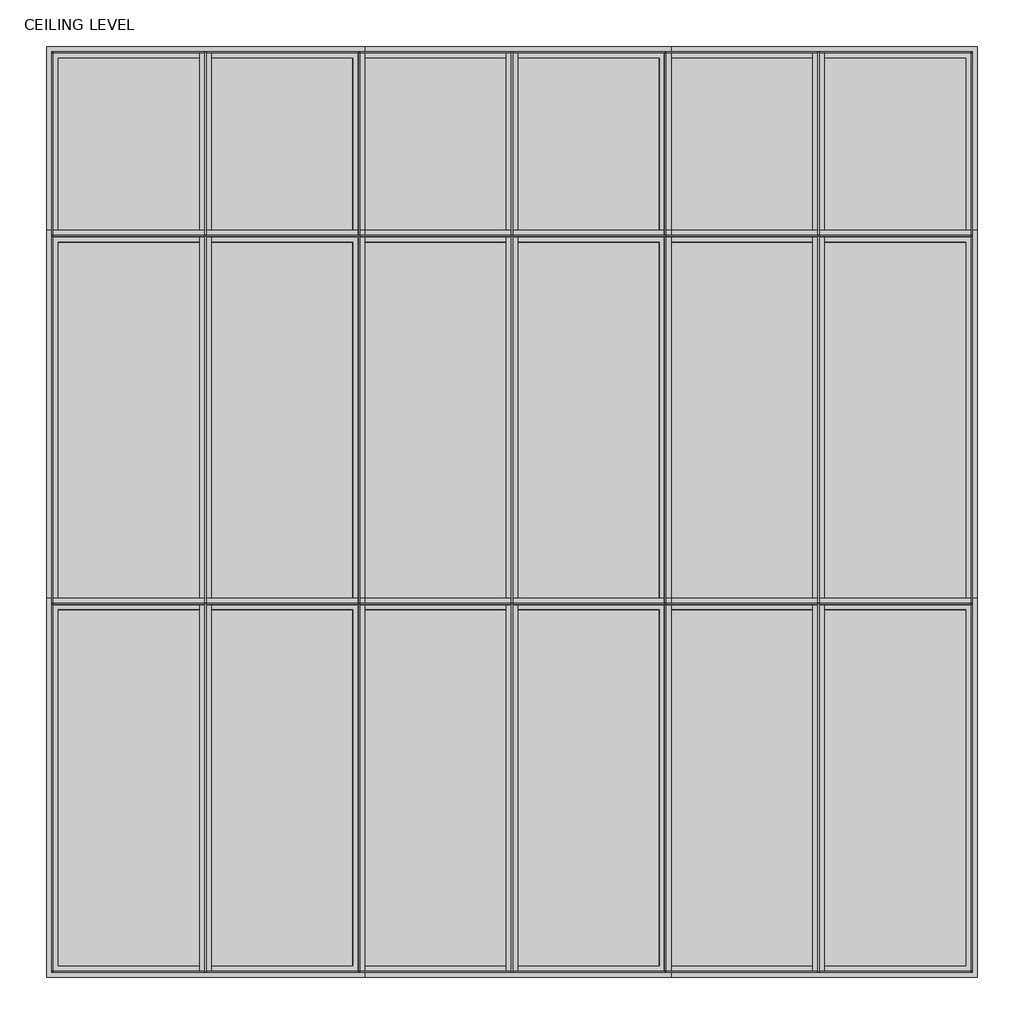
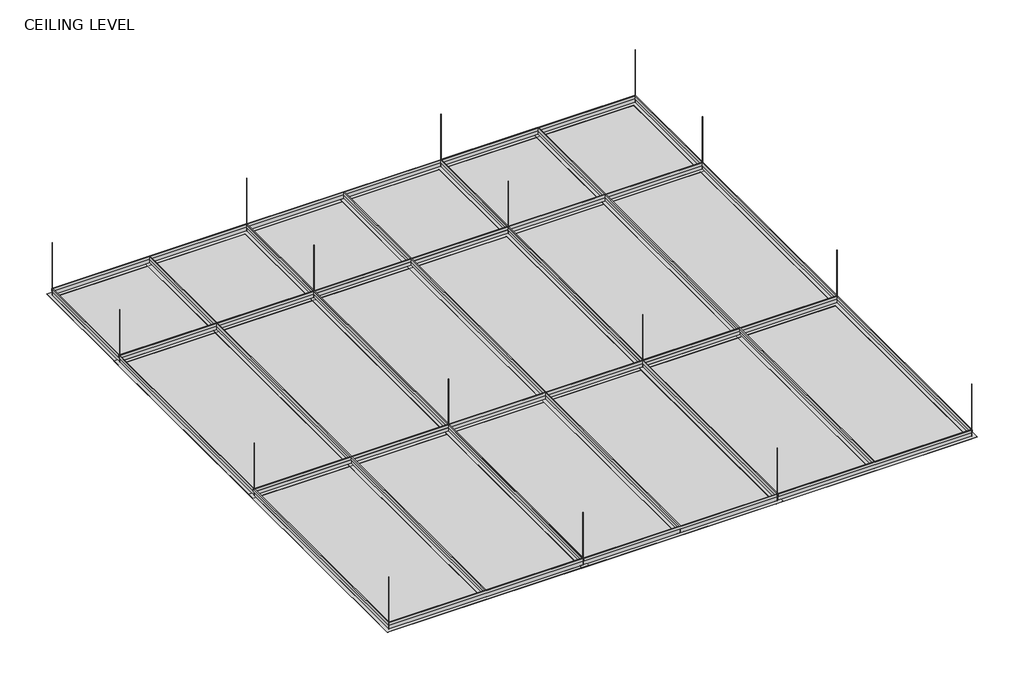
# One storey: 9 plates.
"""IFC4 building model written with IfcOpenShell, lengths in millimetres."""

import ifcopenshell
import ifcopenshell.guid

model = None  # the IFC model being written
_history = None  # IfcOwnerHistory: only IFC2X3 demands one
_inside = {}  # id of a spatial element -> (the spatial element, [elements in it])
_under = {}  # id of a project, library or spatial element -> (it, [spatial elements below it])
_declared = {}  # id of a project -> (the project, [libraries it declares])
_typed = {}  # id of a type object -> (the type object, [elements of that type])
_made_of = {}  # id of a material, layer set ... -> (it, [elements and type objects made of it])


def new_model(schema):
    """Start an empty IFC model of exactly this schema.

    Asked for "IFC4X3", IfcOpenShell would pick the latest addendum, in which some entities
    have other attributes; the version numbers below select the first issue.
    IFC2X3 requires an IfcOwnerHistory on every rooted entity: one is made here for all.
    """
    global model, _history
    if schema == "IFC4X3":
        model = ifcopenshell.file(schema_version=(4, 3, 0, 0))
    else:
        model = ifcopenshell.file(schema=schema)
    _inside.clear()
    _under.clear()
    _declared.clear()
    _typed.clear()
    _made_of.clear()
    _history = None
    if model.schema == "IFC2X3":
        org = make("IfcOrganization", Name="unknown")
        user = make(
            "IfcPersonAndOrganization",
            ThePerson=make("IfcPerson", FamilyName="unknown"),
            TheOrganization=org,
        )
        app = make(
            "IfcApplication",
            ApplicationDeveloper=org,
            Version="unknown",
            ApplicationFullName="unknown",
            ApplicationIdentifier="unknown",
        )
        _history = make(
            "IfcOwnerHistory",
            OwningUser=user,
            OwningApplication=app,
            ChangeAction="ADDED",
            CreationDate=0,
        )
    return model


def make(cls, **values):
    """One entity of the class cls with the attributes given. An attribute that is None is left unset."""
    return model.create_entity(
        cls, **{name: value for name, value in values.items() if value is not None}
    )


def rooted(cls, **values):
    """An entity with a GlobalId (a new one), such as an element, a storey or a relation."""
    return make(cls, GlobalId=ifcopenshell.guid.new(), OwnerHistory=_history, **values)


def si_unit(unit_type, name, prefix=None):
    """IfcSIUnit, for example si_unit("LENGTHUNIT", "METRE", prefix="MILLI")."""
    return make("IfcSIUnit", UnitType=unit_type, Prefix=prefix, Name=name)


def assignment(units):
    """IfcUnitAssignment: the units of a project."""
    return None if units is None else make("IfcUnitAssignment", Units=units)


def point(xyz):
    """IfcCartesianPoint."""
    return None if xyz is None else make("IfcCartesianPoint", Coordinates=xyz)


def direction(xyz):
    """IfcDirection."""
    return None if xyz is None else make("IfcDirection", DirectionRatios=xyz)


def frame(location, z_axis=None, x_axis=None):
    """IfcAxis2Placement3D, a coordinate frame: its origin and axes. An axis left out is left unset."""
    return make(
        "IfcAxis2Placement3D",
        Location=point(location),
        Axis=direction(z_axis),
        RefDirection=direction(x_axis),
    )


def frame_2d(location, x_axis=None):
    """IfcAxis2Placement2D, a coordinate frame in the plane: its origin and x axis."""
    return make(
        "IfcAxis2Placement2D", Location=point(location), RefDirection=direction(x_axis)
    )


def origin():
    """The frame at (0, 0, 0) with its axes left unset."""
    return frame((0.0, 0.0, 0.0))


def origin_with_axes():
    """The frame at (0, 0, 0) with the z axis (0, 0, 1) and the x axis (1, 0, 0) written out."""
    return frame((0.0, 0.0, 0.0), z_axis=(0.0, 0.0, 1.0), x_axis=(1.0, 0.0, 0.0))


def place(relative_to, where):
    """IfcLocalPlacement: puts the frame where relative to a parent placement (None: the world)."""
    return make(
        "IfcLocalPlacement", PlacementRelTo=relative_to, RelativePlacement=where
    )


def context(
    kind, dimensions, precision=None, world=None, true_north=None, identifier=None
):
    """IfcGeometricRepresentationContext, for example the 3D "Model" context."""
    return make(
        "IfcGeometricRepresentationContext",
        ContextIdentifier=identifier,
        ContextType=kind,
        CoordinateSpaceDimension=dimensions,
        Precision=precision,
        WorldCoordinateSystem=world,
        TrueNorth=true_north,
    )


def project(units=None, contexts=None):
    """IfcProject with its units and contexts."""
    return rooted(
        "IfcProject",
        Name="project",
        RepresentationContexts=contexts,
        UnitsInContext=assignment(units),
    )


def spatial(cls, under=None, at=None, **own):
    """A site, building, storey or space (cls), placed at a placement, below another one or the project."""
    s = rooted(cls, ObjectPlacement=at, **own)
    if under is not None:
        _under.setdefault(under.id(), (under, []))[1].append(s)
    return s


def polyline(points):
    """IfcPolyline through the points."""
    return make("IfcPolyline", Points=[point(p) for p in points])


def circle_curve(where, radius):
    """IfcCircle in the frame where."""
    return make("IfcCircle", Position=where, Radius=radius)


def trimmed(basis, trim1, trim2, sense, master):
    """IfcTrimmedCurve: the piece of a basis curve between two trims."""
    return make(
        "IfcTrimmedCurve",
        BasisCurve=basis,
        Trim1=trim1,
        Trim2=trim2,
        SenseAgreement=sense,
        MasterRepresentation=master,
    )


def segment(curve, same_sense, transition):
    """IfcCompositeCurveSegment."""
    return make(
        "IfcCompositeCurveSegment",
        Transition=transition,
        SameSense=same_sense,
        ParentCurve=curve,
    )


def composite_curve(segments, self_intersect=None):
    """IfcCompositeCurve: segments joined end to end."""
    return make("IfcCompositeCurve", Segments=segments, SelfIntersect=self_intersect)


def outline(outer, holes=None, kind="AREA"):
    """IfcArbitraryClosedProfileDef: a profile drawn as a closed curve; with holes, ...WithVoids."""
    if holes is None:
        return make("IfcArbitraryClosedProfileDef", ProfileType=kind, OuterCurve=outer)
    return make(
        "IfcArbitraryProfileDefWithVoids",
        ProfileType=kind,
        OuterCurve=outer,
        InnerCurves=holes,
    )


def extrude(swept, where, along, depth):
    """IfcExtrudedAreaSolid: the profile swept, set in the frame where, extruded along a direction by depth."""
    return make(
        "IfcExtrudedAreaSolid",
        SweptArea=swept,
        Position=where,
        ExtrudedDirection=direction(along),
        Depth=depth,
    )


def faces_of(points, faces, orient=None, outer=None):
    """IfcFace entities. A face is a list of loops; a loop is a list of indices into points, from 0.

    orient and outer hold one flag for each loop. By default every Orientation is true, the
    first loop of a face is its IfcFaceOuterBound and the others are IfcFaceBound.
    """
    made = []
    for i, loops in enumerate(faces):
        bounds = []
        for j, loop in enumerate(loops):
            is_outer = j == 0 if outer is None else outer[i][j]
            bounds.append(
                make(
                    "IfcFaceOuterBound" if is_outer else "IfcFaceBound",
                    Bound=make("IfcPolyLoop", Polygon=[points[k] for k in loop]),
                    Orientation=True if orient is None else orient[i][j],
                )
            )
        made.append(make("IfcFace", Bounds=bounds))
    return made


def faceted_brep(points, faces, orient=None, outer=None, voids=None):
    """IfcFacetedBrep: a solid bounded by flat faces; with voids (closed shells), ...WithVoids."""
    shared = [point(p) for p in points]
    hull = make("IfcClosedShell", CfsFaces=faces_of(shared, faces, orient, outer))
    if voids is None:
        return make("IfcFacetedBrep", Outer=hull)
    return make(
        "IfcFacetedBrepWithVoids",
        Outer=hull,
        Voids=[
            make(cls, CfsFaces=faces_of(shared, fs, o, b)) for cls, fs, o, b in voids
        ],
    )


def shape(context_of_items, identifier, shape_type, items):
    """IfcShapeRepresentation: the items that make up one representation, for example the "Body"."""
    return make(
        "IfcShapeRepresentation",
        ContextOfItems=context_of_items,
        RepresentationIdentifier=identifier,
        RepresentationType=shape_type,
        Items=items,
    )


def source(mapping_origin, context_of_items, identifier, shape_type, items):
    """IfcRepresentationMap: a shape defined once, which mapped items show again and again."""
    return make(
        "IfcRepresentationMap",
        MappingOrigin=mapping_origin,
        MappedRepresentation=shape(context_of_items, identifier, shape_type, items),
    )


def transform(
    local_origin,
    x_axis=None,
    y_axis=None,
    z_axis=None,
    scale=None,
    scale2=None,
    scale3=None,
    uniform=True,
):
    """IfcCartesianTransformationOperator3D, or its non-uniform kind. x_axis, y_axis, z_axis: its Axis1, 2, 3."""
    if uniform:
        return make(
            "IfcCartesianTransformationOperator3D",
            Axis1=direction(x_axis),
            Axis2=direction(y_axis),
            LocalOrigin=point(local_origin),
            Scale=scale,
            Axis3=direction(z_axis),
        )
    return make(
        "IfcCartesianTransformationOperator3DnonUniform",
        Axis1=direction(x_axis),
        Axis2=direction(y_axis),
        LocalOrigin=point(local_origin),
        Scale=scale,
        Axis3=direction(z_axis),
        Scale2=scale2,
        Scale3=scale3,
    )


def mapped(mapping_source, mapping_target):
    """IfcMappedItem: shows the shape of a source again, moved by a transform."""
    return make(
        "IfcMappedItem", MappingSource=mapping_source, MappingTarget=mapping_target
    )


def made_of(thing, what):
    """Note that an element or type object is made of a material, layer set ...; save() writes the relation."""
    if what is not None:
        _made_of.setdefault(what.id(), (what, []))[1].append(thing)
    return thing


def element(
    cls,
    number,
    at=None,
    inside=None,
    cuts=None,
    type_object=None,
    material=None,
    context=None,
    identifier="Body",
    shape_type=None,
    held_by="IfcProductDefinitionShape",
    body=None,
    shapes=None,
    **own,
):
    """One element of the class cls, such as IfcWall. Its Tag is "e" and its number.

    at: its placement. inside: the storey or other place that contains it. cuts: it is an
    opening in that element (IfcRelVoidsElement). A single representation is given by context,
    identifier, shape_type and body (its items); several are given by shapes. held_by: the class
    of the entity that holds the representations. save() writes the other relations.
    """
    e = rooted(cls, Tag="e%d" % number, ObjectPlacement=at, **own)
    if body is not None:
        shapes = [shape(context, identifier, shape_type, body)]
    if shapes is not None:
        e.Representation = make(held_by, Representations=shapes)
    if inside is not None:
        _inside.setdefault(inside.id(), (inside, []))[1].append(e)
    if cuts is not None:
        rooted(
            "IfcRelVoidsElement", RelatingBuildingElement=cuts, RelatedOpeningElement=e
        )
    if type_object is not None:
        _typed.setdefault(type_object.id(), (type_object, []))[1].append(e)
    return made_of(e, material)


def aggregate(whole, parts):
    """IfcRelAggregates: a whole, such as a stair, and the parts it consists of."""
    return rooted("IfcRelAggregates", RelatingObject=whole, RelatedObjects=parts)


def save(model, path):
    """Write the relations noted so far, then the file.

    IfcRelAggregates (storeys below a building ...), IfcRelContainedInSpatialStructure (elements
    in a storey), IfcRelDefinesByType, IfcRelAssociatesMaterial and IfcRelDeclares: one each for
    every whole, place, type object, material and project.
    """
    for whole, parts in _under.values():
        aggregate(whole, parts)
    for where, things in _inside.values():
        rooted(
            "IfcRelContainedInSpatialStructure",
            RelatedElements=things,
            RelatingStructure=where,
        )
    for kind, things in _typed.values():
        rooted("IfcRelDefinesByType", RelatedObjects=things, RelatingType=kind)
    for what, things in _made_of.values():
        rooted("IfcRelAssociatesMaterial", RelatedObjects=things, RelatingMaterial=what)
    for by, libraries in _declared.values():
        rooted("IfcRelDeclares", RelatingContext=by, RelatedDefinitions=libraries)
    model.write(path)


def flush_ceiling_panel_with_tee_and_cable_ties_9fe2c077(model_context):
    return source(origin(), model_context, "Body", "SolidModel", [
        extrude(outline(composite_curve([segment(trimmed(circle_curve(frame_2d((1200.0, 500.0000002)), 0.5), [point((1200.0, 500.5000002))], [point((1200.0, 499.5000002))], False, "CARTESIAN"), True, "CONTINUOUS"), segment(trimmed(circle_curve(frame_2d((1200.0, 500.0000002)), 0.5), [point((1200.0, 499.5000002))], [point((1200.0, 500.5000002))], False, "CARTESIAN"), True, "CONTINUOUS")], self_intersect=False)), frame((0.0, -300.0, 0.0), z_axis=(0.0, 1.0, 0.0), x_axis=(0.0, 0.0, 1.0)), (0.0, 0.0, 1.0), 300.0),
        extrude(outline(composite_curve([segment(trimmed(circle_curve(frame_2d((1200.0, -500.0000002)), 0.5), [point((1200.0, -499.5000002))], [point((1200.0, -500.5000002))], False, "CARTESIAN"), True, "CONTINUOUS"), segment(trimmed(circle_curve(frame_2d((1200.0, -500.0000002)), 0.5), [point((1200.0, -500.5000002))], [point((1200.0, -499.5000002))], False, "CARTESIAN"), True, "CONTINUOUS")], self_intersect=False)), frame((0.0, -300.0, 0.0), z_axis=(0.0, 1.0, 0.0), x_axis=(0.0, 0.0, 1.0)), (0.0, 0.0, 1.0), 300.0),
        extrude(outline(composite_curve([segment(trimmed(circle_curve(frame_2d((0.0, 500.0000002)), 0.5), [point((0.0, 500.5000002))], [point((0.0, 499.5000002))], False, "CARTESIAN"), True, "CONTINUOUS"), segment(trimmed(circle_curve(frame_2d((0.0, 500.0000002)), 0.5), [point((0.0, 499.5000002))], [point((0.0, 500.5000002))], False, "CARTESIAN"), True, "CONTINUOUS")], self_intersect=False)), frame((0.0, -300.0, 0.0), z_axis=(0.0, 1.0, 0.0), x_axis=(0.0, 0.0, 1.0)), (0.0, 0.0, 1.0), 300.0),
        extrude(outline(composite_curve([segment(trimmed(circle_curve(frame_2d((0.0, -500.0000002)), 0.5), [point((0.0, -499.5000002))], [point((0.0, -500.5000002))], False, "CARTESIAN"), True, "CONTINUOUS"), segment(trimmed(circle_curve(frame_2d((0.0, -500.0000002)), 0.5), [point((0.0, -500.5000002))], [point((0.0, -499.5000002))], False, "CARTESIAN"), True, "CONTINUOUS")], self_intersect=False)), frame((0.0, -300.0, 0.0), z_axis=(0.0, 1.0, 0.0), x_axis=(0.0, 0.0, 1.0)), (0.0, 0.0, 1.0), 300.0),
        extrude(outline(polyline([(19.0, -15.0), (19.0, -16.0), (0.5, -16.0), (0.5, -37.0), (2.5, -37.0), (2.5, -51.0), (-2.5, -51.0), (-2.5, -37.0), (-0.5, -37.0), (-0.5, -16.0), (-19.0, -16.0), (-19.0, -15.0), (19.0, -15.0)])), origin_with_axes(), (0.0, 0.0, 1.0), 1200.0),
        faceted_brep([(499.5000002, -37.0, 1199.5), (499.5000002, -16.0, 1199.5), (499.5000002, -16.0, 0.5), (499.5000002, -37.0, 0.5), (497.5000002, -51.0, 1197.5), (497.5000002, -37.0, 1197.5), (497.5000002, -37.0, 2.5), (497.5000002, -51.0, 2.5), (502.5000002, -37.0, 1202.5), (502.5000002, -51.0, 1202.5), (502.5000002, -51.0, -2.5), (502.5000002, -37.0, -2.5), (500.5000002, -16.0, 1200.5), (500.5000002, -37.0, 1200.5), (500.5000002, -37.0, -0.5), (500.5000002, -16.0, -0.5), (519.0000002, -15.0, 1219.0), (519.0000002, -16.0, 1219.0), (519.0000002, -16.0, -19.0), (519.0000002, -15.0, -19.0), (-499.5000002, -16.0, 0.5), (-499.5000002, -37.0, 0.5), (-497.5000002, -37.0, 2.5), (-497.5000002, -51.0, 2.5), (-502.5000002, -51.0, -2.5), (-502.5000002, -37.0, -2.5), (-500.5000002, -37.0, -0.5), (-500.5000002, -16.0, -0.5), (-519.0000002, -16.0, -19.0), (-519.0000002, -15.0, -19.0), (-499.5000002, -16.0, 1199.5), (-499.5000002, -37.0, 1199.5), (-497.5000002, -37.0, 1197.5), (-497.5000002, -51.0, 1197.5), (-502.5000002, -51.0, 1202.5), (-502.5000002, -37.0, 1202.5), (-500.5000002, -37.0, 1200.5), (-500.5000002, -16.0, 1200.5), (-519.0000002, -16.0, 1219.0), (-519.0000002, -15.0, 1219.0), (481.0000002, -15.0, 1181.0), (-481.0000002, -15.0, 1181.0), (-481.0000002, -15.0, 19.0), (481.0000002, -15.0, 19.0), (481.0000002, -16.0, 1181.0), (481.0000002, -16.0, 19.0), (-481.0000002, -16.0, 19.0), (-481.0000002, -16.0, 1181.0)], [[[0, 1, 2, 3]], [[4, 5, 6, 7]], [[8, 9, 10, 11]], [[12, 13, 14, 15]], [[16, 17, 18, 19]], [[3, 2, 20, 21]], [[7, 6, 22, 23]], [[11, 10, 24, 25]], [[15, 14, 26, 27]], [[19, 18, 28, 29]], [[21, 20, 30, 31]], [[23, 22, 32, 33]], [[25, 24, 34, 35]], [[27, 26, 36, 37]], [[29, 28, 38, 39]], [[19, 29, 39, 16], [40, 41, 42, 43]], [[31, 30, 1, 0]], [[3, 21, 31, 0], [5, 32, 22, 6]], [[33, 32, 5, 4]], [[9, 34, 24, 10], [7, 23, 33, 4]], [[35, 34, 9, 8]], [[11, 25, 35, 8], [13, 36, 26, 14]], [[37, 36, 13, 12]], [[17, 38, 28, 18], [15, 27, 37, 12]], [[39, 38, 17, 16]], [[44, 40, 43, 45]], [[45, 43, 42, 46]], [[46, 42, 41, 47]], [[47, 41, 40, 44]], [[1, 30, 20, 2], [45, 46, 47, 44]]]),
        extrude(outline(polyline([(500.0000002, -15.0), (-500.0000002, -15.0), (-500.0000002, 0.0), (500.0000002, 0.0), (500.0000002, -15.0)])), origin_with_axes(), (0.0, 0.0, 1.0), 1200.0),
    ])


def flush_ceiling_panel_with_tee_and_cable_ties_458a10b8(model_context):
    return source(origin(), model_context, "Body", "SolidModel", [
        extrude(outline(composite_curve([segment(trimmed(circle_curve(frame_2d((600.0, 500.0000002)), 0.5), [point((600.0, 500.5000002))], [point((600.0, 499.5000002))], False, "CARTESIAN"), True, "CONTINUOUS"), segment(trimmed(circle_curve(frame_2d((600.0, 500.0000002)), 0.5), [point((600.0, 499.5000002))], [point((600.0, 500.5000002))], False, "CARTESIAN"), True, "CONTINUOUS")], self_intersect=False)), frame((0.0, -300.0, 0.0), z_axis=(0.0, 1.0, 0.0), x_axis=(0.0, 0.0, 1.0)), (0.0, 0.0, 1.0), 300.0),
        extrude(outline(composite_curve([segment(trimmed(circle_curve(frame_2d((600.0, -500.0000002)), 0.5), [point((600.0, -499.5000002))], [point((600.0, -500.5000002))], False, "CARTESIAN"), True, "CONTINUOUS"), segment(trimmed(circle_curve(frame_2d((600.0, -500.0000002)), 0.5), [point((600.0, -500.5000002))], [point((600.0, -499.5000002))], False, "CARTESIAN"), True, "CONTINUOUS")], self_intersect=False)), frame((0.0, -300.0, 0.0), z_axis=(0.0, 1.0, 0.0), x_axis=(0.0, 0.0, 1.0)), (0.0, 0.0, 1.0), 300.0),
        extrude(outline(composite_curve([segment(trimmed(circle_curve(frame_2d((0.0, 500.0000002)), 0.5), [point((0.0, 500.5000002))], [point((0.0, 499.5000002))], False, "CARTESIAN"), True, "CONTINUOUS"), segment(trimmed(circle_curve(frame_2d((0.0, 500.0000002)), 0.5), [point((0.0, 499.5000002))], [point((0.0, 500.5000002))], False, "CARTESIAN"), True, "CONTINUOUS")], self_intersect=False)), frame((0.0, -300.0, 0.0), z_axis=(0.0, 1.0, 0.0), x_axis=(0.0, 0.0, 1.0)), (0.0, 0.0, 1.0), 300.0),
        extrude(outline(composite_curve([segment(trimmed(circle_curve(frame_2d((0.0, -500.0000002)), 0.5), [point((0.0, -499.5000002))], [point((0.0, -500.5000002))], False, "CARTESIAN"), True, "CONTINUOUS"), segment(trimmed(circle_curve(frame_2d((0.0, -500.0000002)), 0.5), [point((0.0, -500.5000002))], [point((0.0, -499.5000002))], False, "CARTESIAN"), True, "CONTINUOUS")], self_intersect=False)), frame((0.0, -300.0, 0.0), z_axis=(0.0, 1.0, 0.0), x_axis=(0.0, 0.0, 1.0)), (0.0, 0.0, 1.0), 300.0),
        extrude(outline(polyline([(19.0, -15.0), (19.0, -16.0), (0.5, -16.0), (0.5, -37.0), (2.5, -37.0), (2.5, -51.0), (-2.5, -51.0), (-2.5, -37.0), (-0.5, -37.0), (-0.5, -16.0), (-19.0, -16.0), (-19.0, -15.0), (19.0, -15.0)])), origin_with_axes(), (0.0, 0.0, 1.0), 600.0),
        faceted_brep([(499.5000002, -37.0, 599.5), (499.5000002, -16.0, 599.5), (499.5000002, -16.0, 0.5), (499.5000002, -37.0, 0.5), (497.5000002, -51.0, 597.5), (497.5000002, -37.0, 597.5), (497.5000002, -37.0, 2.5), (497.5000002, -51.0, 2.5), (502.5000002, -37.0, 602.5), (502.5000002, -51.0, 602.5), (502.5000002, -51.0, -2.5), (502.5000002, -37.0, -2.5), (500.5000002, -16.0, 600.5), (500.5000002, -37.0, 600.5), (500.5000002, -37.0, -0.5), (500.5000002, -16.0, -0.5), (519.0000002, -15.0, 619.0), (519.0000002, -16.0, 619.0), (519.0000002, -16.0, -19.0), (519.0000002, -15.0, -19.0), (-499.5000002, -16.0, 0.5), (-499.5000002, -37.0, 0.5), (-497.5000002, -37.0, 2.5), (-497.5000002, -51.0, 2.5), (-502.5000002, -51.0, -2.5), (-502.5000002, -37.0, -2.5), (-500.5000002, -37.0, -0.5), (-500.5000002, -16.0, -0.5), (-519.0000002, -16.0, -19.0), (-519.0000002, -15.0, -19.0), (-499.5000002, -16.0, 599.5), (-499.5000002, -37.0, 599.5), (-497.5000002, -37.0, 597.5), (-497.5000002, -51.0, 597.5), (-502.5000002, -51.0, 602.5), (-502.5000002, -37.0, 602.5), (-500.5000002, -37.0, 600.5), (-500.5000002, -16.0, 600.5), (-519.0000002, -16.0, 619.0), (-519.0000002, -15.0, 619.0), (481.0000002, -15.0, 581.0), (-481.0000002, -15.0, 581.0), (-481.0000002, -15.0, 19.0), (481.0000002, -15.0, 19.0), (481.0000002, -16.0, 581.0), (481.0000002, -16.0, 19.0), (-481.0000002, -16.0, 19.0), (-481.0000002, -16.0, 581.0)], [[[0, 1, 2, 3]], [[4, 5, 6, 7]], [[8, 9, 10, 11]], [[12, 13, 14, 15]], [[16, 17, 18, 19]], [[3, 2, 20, 21]], [[7, 6, 22, 23]], [[11, 10, 24, 25]], [[15, 14, 26, 27]], [[19, 18, 28, 29]], [[21, 20, 30, 31]], [[23, 22, 32, 33]], [[25, 24, 34, 35]], [[27, 26, 36, 37]], [[29, 28, 38, 39]], [[19, 29, 39, 16], [40, 41, 42, 43]], [[31, 30, 1, 0]], [[3, 21, 31, 0], [5, 32, 22, 6]], [[33, 32, 5, 4]], [[9, 34, 24, 10], [7, 23, 33, 4]], [[35, 34, 9, 8]], [[11, 25, 35, 8], [13, 36, 26, 14]], [[37, 36, 13, 12]], [[17, 38, 28, 18], [15, 27, 37, 12]], [[39, 38, 17, 16]], [[44, 40, 43, 45]], [[45, 43, 42, 46]], [[46, 42, 41, 47]], [[47, 41, 40, 44]], [[1, 30, 20, 2], [45, 46, 47, 44]]]),
        extrude(outline(polyline([(500.0000002, -15.0), (-500.0000002, -15.0), (-500.0000002, 0.0), (500.0000002, 0.0), (500.0000002, -15.0)])), origin_with_axes(), (0.0, 0.0, 1.0), 600.0),
    ])


def flush_ceiling_panel_with_tee_and_cable_ties_ceiling_panel_c41c92fd(model_context):
    return source(origin(), model_context, "Body", "SolidModel", [
        extrude(outline(composite_curve([segment(trimmed(circle_curve(frame_2d((1200.0, 500.0000002)), 0.5), [point((1200.0, 500.5000002))], [point((1200.0, 499.5000002))], False, "CARTESIAN"), True, "CONTINUOUS"), segment(trimmed(circle_curve(frame_2d((1200.0, 500.0000002)), 0.5), [point((1200.0, 499.5000002))], [point((1200.0, 500.5000002))], False, "CARTESIAN"), True, "CONTINUOUS")], self_intersect=False)), frame((0.0, -300.0, 0.0), z_axis=(0.0, 1.0, 0.0), x_axis=(0.0, 0.0, 1.0)), (0.0, 0.0, 1.0), 300.0),
        extrude(outline(composite_curve([segment(trimmed(circle_curve(frame_2d((1200.0, -500.0000002)), 0.5), [point((1200.0, -499.5000002))], [point((1200.0, -500.5000002))], False, "CARTESIAN"), True, "CONTINUOUS"), segment(trimmed(circle_curve(frame_2d((1200.0, -500.0000002)), 0.5), [point((1200.0, -500.5000002))], [point((1200.0, -499.5000002))], False, "CARTESIAN"), True, "CONTINUOUS")], self_intersect=False)), frame((0.0, -300.0, 0.0), z_axis=(0.0, 1.0, 0.0), x_axis=(0.0, 0.0, 1.0)), (0.0, 0.0, 1.0), 300.0),
        extrude(outline(composite_curve([segment(trimmed(circle_curve(frame_2d((0.0, 500.0000002)), 0.5), [point((0.0, 500.5000002))], [point((0.0, 499.5000002))], False, "CARTESIAN"), True, "CONTINUOUS"), segment(trimmed(circle_curve(frame_2d((0.0, 500.0000002)), 0.5), [point((0.0, 499.5000002))], [point((0.0, 500.5000002))], False, "CARTESIAN"), True, "CONTINUOUS")], self_intersect=False)), frame((0.0, -300.0, 0.0), z_axis=(0.0, 1.0, 0.0), x_axis=(0.0, 0.0, 1.0)), (0.0, 0.0, 1.0), 300.0),
        extrude(outline(composite_curve([segment(trimmed(circle_curve(frame_2d((0.0, -500.0000002)), 0.5), [point((0.0, -499.5000002))], [point((0.0, -500.5000002))], False, "CARTESIAN"), True, "CONTINUOUS"), segment(trimmed(circle_curve(frame_2d((0.0, -500.0000002)), 0.5), [point((0.0, -500.5000002))], [point((0.0, -499.5000002))], False, "CARTESIAN"), True, "CONTINUOUS")], self_intersect=False)), frame((0.0, -300.0, 0.0), z_axis=(0.0, 1.0, 0.0), x_axis=(0.0, 0.0, 1.0)), (0.0, 0.0, 1.0), 300.0),
        extrude(outline(polyline([(19.0, -15.0), (19.0, -16.0), (0.5, -16.0), (0.5, -37.0), (2.5, -37.0), (2.5, -51.0), (-2.5, -51.0), (-2.5, -37.0), (-0.5, -37.0), (-0.5, -16.0), (-19.0, -16.0), (-19.0, -15.0), (19.0, -15.0)])), origin_with_axes(), (0.0, 0.0, 1.0), 1200.0),
        faceted_brep([(481.0000002, -16.0, 1181.0), (481.0000002, -15.0, 1181.0), (481.0000002, -15.0, 19.0), (481.0000002, -16.0, 19.0), (499.5000002, -37.0, 1199.5), (499.5000002, -16.0, 1199.5), (499.5000002, -16.0, 0.5), (499.5000002, -37.0, 0.5), (497.5000002, -51.0, 1197.5), (497.5000002, -37.0, 1197.5), (497.5000002, -37.0, 2.5), (497.5000002, -51.0, 2.5), (502.5000002, -37.0, 1202.5), (502.5000002, -51.0, 1202.5), (502.5000002, -51.0, -2.5), (502.5000002, -37.0, -2.5), (500.5000002, -16.0, 1200.5), (500.5000002, -37.0, 1200.5), (500.5000002, -37.0, -0.5), (500.5000002, -16.0, -0.5), (519.0000002, -15.0, 1219.0), (519.0000002, -16.0, 1219.0), (519.0000002, -16.0, -19.0), (519.0000002, -15.0, -19.0), (-481.0000002, -15.0, 19.0), (-481.0000002, -16.0, 19.0), (-499.5000002, -16.0, 0.5), (-499.5000002, -37.0, 0.5), (-497.5000002, -37.0, 2.5), (-497.5000002, -51.0, 2.5), (-502.5000002, -51.0, -2.5), (-502.5000002, -37.0, -2.5), (-500.5000002, -37.0, -0.5), (-500.5000002, -16.0, -0.5), (-519.0000002, -16.0, -19.0), (-519.0000002, -15.0, -19.0), (-481.0000002, -15.0, 1181.0), (-481.0000002, -16.0, 1181.0), (-499.5000002, -16.0, 1199.5), (-499.5000002, -37.0, 1199.5), (-497.5000002, -37.0, 1197.5), (-497.5000002, -51.0, 1197.5), (-502.5000002, -51.0, 1202.5), (-502.5000002, -37.0, 1202.5), (-500.5000002, -37.0, 1200.5), (-500.5000002, -16.0, 1200.5), (-519.0000002, -16.0, 1219.0), (-519.0000002, -15.0, 1219.0)], [[[0, 1, 2, 3]], [[4, 5, 6, 7]], [[8, 9, 10, 11]], [[12, 13, 14, 15]], [[16, 17, 18, 19]], [[20, 21, 22, 23]], [[3, 2, 24, 25]], [[7, 6, 26, 27]], [[11, 10, 28, 29]], [[15, 14, 30, 31]], [[19, 18, 32, 33]], [[23, 22, 34, 35]], [[25, 24, 36, 37]], [[27, 26, 38, 39]], [[29, 28, 40, 41]], [[31, 30, 42, 43]], [[33, 32, 44, 45]], [[35, 34, 46, 47]], [[23, 35, 47, 20], [1, 36, 24, 2]], [[37, 36, 1, 0]], [[5, 38, 26, 6], [3, 25, 37, 0]], [[39, 38, 5, 4]], [[7, 27, 39, 4], [9, 40, 28, 10]], [[41, 40, 9, 8]], [[13, 42, 30, 14], [11, 29, 41, 8]], [[43, 42, 13, 12]], [[15, 31, 43, 12], [17, 44, 32, 18]], [[45, 44, 17, 16]], [[21, 46, 34, 22], [19, 33, 45, 16]], [[47, 46, 21, 20]]]),
        extrude(outline(polyline([(500.0000002, -15.0), (-500.0000002, -15.0), (-500.0000002, 0.0), (500.0000002, 0.0), (500.0000002, -15.0)])), origin_with_axes(), (0.0, 0.0, 1.0), 1200.0),
    ])


model = new_model("IFC4")

# Units and contexts
model_context = context("Model", 3, world=origin())
ifc_project = project(units=[si_unit("LENGTHUNIT", "METRE", prefix="MILLI")], contexts=[model_context])

# Site, building, storey
site = spatial("IfcSite", under=ifc_project)
building = spatial("IfcBuilding", under=site)
storey = spatial("IfcBuildingStorey", under=building, Name="CEILING LEVEL", Elevation=3000.0)

# Plates
placement = place(None, origin())
flush_ceiling_panel_with_tee_and_cable_ties_shape = flush_ceiling_panel_with_tee_and_cable_ties_9fe2c077(model_context)
element("IfcPlate", 1, ObjectType="Flush Ceiling Panel with Tee and Cable Ties : Ceiling Panel (Vinyl) with Tee and Cable Ties Edge", at=placement, inside=storey, context=model_context, shape_type="MappedRepresentation", body=[
    mapped(flush_ceiling_panel_with_tee_and_cable_ties_shape, transform((28839.2778373, -41850.6917524, 3000.0), x_axis=(1.0, 0.0, 0.0), y_axis=(0.0, 0.0, -1.0), z_axis=(0.0, 1.0, 0.0))),
])
element("IfcPlate", 2, ObjectType="Flush Ceiling Panel with Tee and Cable Ties : Ceiling Panel (Vinyl) with Tee and Cable Ties Edge", at=placement, inside=storey, context=model_context, shape_type="MappedRepresentation", body=[
    mapped(flush_ceiling_panel_with_tee_and_cable_ties_shape, transform((28839.2778373, -40650.6917524, 3000.0), x_axis=(1.0, 0.0, 0.0), y_axis=(0.0, 0.0, -1.0), z_axis=(0.0, 1.0, 0.0))),
])
flush_ceiling_panel_with_tee_and_cable_ties_2_shape = flush_ceiling_panel_with_tee_and_cable_ties_458a10b8(model_context)
element("IfcPlate", 3, ObjectType="Flush Ceiling Panel with Tee and Cable Ties : Ceiling Panel (Vinyl) with Tee and Cable Ties Edge", at=placement, inside=storey, context=model_context, shape_type="MappedRepresentation", body=[
    mapped(flush_ceiling_panel_with_tee_and_cable_ties_2_shape, transform((26839.2778373, -39450.6917524, 3000.0), x_axis=(1.0, 0.0, 0.0), y_axis=(0.0, 0.0, -1.0), z_axis=(0.0, 1.0, 0.0))),
])
element("IfcPlate", 4, ObjectType="Flush Ceiling Panel with Tee and Cable Ties : Ceiling Panel (Vinyl) with Tee and Cable Ties Edge", at=placement, inside=storey, context=model_context, shape_type="MappedRepresentation", body=[
    mapped(flush_ceiling_panel_with_tee_and_cable_ties_2_shape, transform((27839.2778375, -39450.6917524, 3000.0), x_axis=(1.0, 0.0, 0.0), y_axis=(0.0, 0.0, -1.0), z_axis=(0.0, 1.0, 0.0))),
])
element("IfcPlate", 5, ObjectType="Flush Ceiling Panel with Tee and Cable Ties : Ceiling Panel (Vinyl) with Tee and Cable Ties Edge", at=placement, inside=storey, context=model_context, shape_type="MappedRepresentation", body=[
    mapped(flush_ceiling_panel_with_tee_and_cable_ties_2_shape, transform((28839.2778373, -39450.6917524, 3000.0), x_axis=(1.0, 0.0, 0.0), y_axis=(0.0, 0.0, -1.0), z_axis=(0.0, 1.0, 0.0))),
])
flush_ceiling_panel_with_tee_and_cable_ties_ceiling_panel_shape = flush_ceiling_panel_with_tee_and_cable_ties_ceiling_panel_c41c92fd(model_context)
element("IfcPlate", 6, ObjectType="Flush Ceiling Panel with Tee and Cable Ties : Ceiling Panel with Tee and Cable Ties 1200x600", at=placement, inside=storey, context=model_context, shape_type="MappedRepresentation", body=[
    mapped(flush_ceiling_panel_with_tee_and_cable_ties_ceiling_panel_shape, transform((26839.2778373, -41850.6917524, 3000.0), x_axis=(1.0, 0.0, 0.0), y_axis=(0.0, 0.0, -1.0), z_axis=(0.0, 1.0, 0.0))),
])
element("IfcPlate", 7, ObjectType="Flush Ceiling Panel with Tee and Cable Ties : Ceiling Panel with Tee and Cable Ties 1200x600", at=placement, inside=storey, context=model_context, shape_type="MappedRepresentation", body=[
    mapped(flush_ceiling_panel_with_tee_and_cable_ties_ceiling_panel_shape, transform((27839.2778375, -41850.6917524, 3000.0), x_axis=(1.0, 0.0, 0.0), y_axis=(0.0, 0.0, -1.0), z_axis=(0.0, 1.0, 0.0))),
])
element("IfcPlate", 8, ObjectType="Flush Ceiling Panel with Tee and Cable Ties : Ceiling Panel with Tee and Cable Ties 1200x600", at=placement, inside=storey, context=model_context, shape_type="MappedRepresentation", body=[
    mapped(flush_ceiling_panel_with_tee_and_cable_ties_ceiling_panel_shape, transform((26839.2778373, -40650.6917524, 3000.0), x_axis=(1.0, 0.0, 0.0), y_axis=(0.0, 0.0, -1.0), z_axis=(0.0, 1.0, 0.0))),
])
element("IfcPlate", 9, ObjectType="Flush Ceiling Panel with Tee and Cable Ties : Ceiling Panel with Tee and Cable Ties 1200x600", at=placement, inside=storey, context=model_context, shape_type="MappedRepresentation", body=[
    mapped(flush_ceiling_panel_with_tee_and_cable_ties_ceiling_panel_shape, transform((27839.2778375, -40650.6917524, 3000.0), x_axis=(1.0, 0.0, 0.0), y_axis=(0.0, 0.0, -1.0), z_axis=(0.0, 1.0, 0.0))),
])

save(model, "model.ifc")
